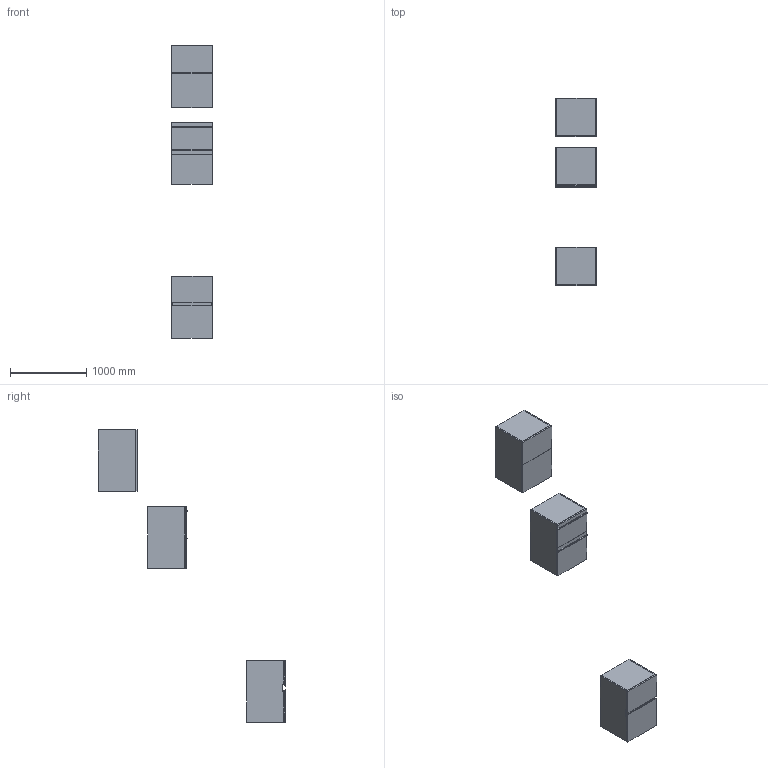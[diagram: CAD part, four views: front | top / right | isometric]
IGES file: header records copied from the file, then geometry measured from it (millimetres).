
Start section: Data from Parasolid IGES Translator 19.0.9, Copyright(c) 2006 Siemens PL M Software. All Rights Reserved.
Global section: file name: noorth-SI-H 81,2 D 51 W 54_9729.igs; native system: By Siemens PLM Incorporated; preprocessor: XPlus GENERIC/IGES 19.0.9; author: Noname; organization: Noname; date: 20200601.141438; units: metre
Bounding box: 540 x 2458 x 3842 mm (x, y, z)
Volume: 89824611.5 mm3; surface area: 13530280.6 mm2
Topology: 24 solids, 24 shells, 248 faces, 544 edges, 324 vertices
Faces by surface type: plane 164, extrusion 36, bspline 32, cylinder 16
